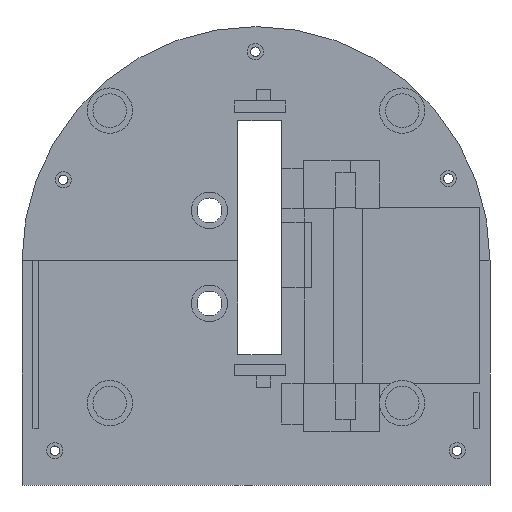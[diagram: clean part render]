
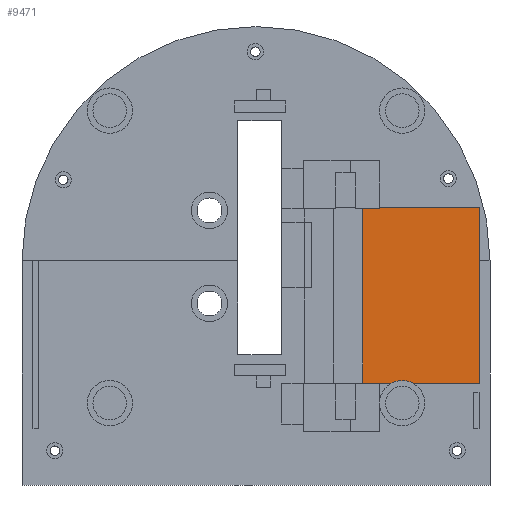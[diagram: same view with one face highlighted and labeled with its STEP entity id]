
A CAD part, left-side view. The second image highlights one B-rep face of the part: STEP entity #9471.
In plain terms, the highlighted planar face has unit normal (-1, 0, 0).
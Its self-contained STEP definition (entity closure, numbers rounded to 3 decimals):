
#6705 = PLANE('',#6706);
#6706 = AXIS2_PLACEMENT_3D('',#6707,#6708,#6709);
#6707 = CARTESIAN_POINT('',(53.75,1.4,15.25));
#6708 = DIRECTION('',(0.,0.,1.));
#6709 = DIRECTION('',(1.,0.,0.));
#6731 = PLANE('',#6732);
#6732 = AXIS2_PLACEMENT_3D('',#6733,#6734,#6735);
#6733 = CARTESIAN_POINT('',(53.75,1.4,15.25));
#6734 = DIRECTION('',(0.,1.,0.));
#6735 = DIRECTION('',(0.,0.,1.));
#7311 = PLANE('',#7312);
#7312 = AXIS2_PLACEMENT_3D('',#7313,#7314,#7315);
#7313 = CARTESIAN_POINT('',(53.75,1.4,39.25));
#7314 = DIRECTION('',(0.,0.,1.));
#7315 = DIRECTION('',(1.,0.,0.));
#7713 = VERTEX_POINT('',#7714);
#7714 = CARTESIAN_POINT('',(63.75,1.4,15.25));
#7738 = VERTEX_POINT('',#7739);
#7739 = CARTESIAN_POINT('',(63.75,1.4,39.25));
#7760 = EDGE_CURVE('',#7713,#7738,#7761,.T.);
#7761 = SURFACE_CURVE('',#7762,(#7766,#7773),.PCURVE_S1.);
#7762 = LINE('',#7763,#7764);
#7763 = CARTESIAN_POINT('',(63.75,1.4,15.25));
#7764 = VECTOR('',#7765,1.);
#7765 = DIRECTION('',(0.,0.,1.));
#7766 = PCURVE('',#6731,#7767);
#7767 = DEFINITIONAL_REPRESENTATION('',(#7768),#7772);
#7768 = LINE('',#7769,#7770);
#7769 = CARTESIAN_POINT('',(0.,10.));
#7770 = VECTOR('',#7771,1.);
#7771 = DIRECTION('',(1.,0.));
#7772 = ( GEOMETRIC_REPRESENTATION_CONTEXT(2) 
PARAMETRIC_REPRESENTATION_CONTEXT() REPRESENTATION_CONTEXT('2D SPACE',''
  ) );
#7773 = PCURVE('',#7774,#7779);
#7774 = PLANE('',#7775);
#7775 = AXIS2_PLACEMENT_3D('',#7776,#7777,#7778);
#7776 = CARTESIAN_POINT('',(63.75,1.4,15.25));
#7777 = DIRECTION('',(1.,0.,0.));
#7778 = DIRECTION('',(0.,0.,1.));
#7779 = DEFINITIONAL_REPRESENTATION('',(#7780),#7784);
#7780 = LINE('',#7781,#7782);
#7781 = CARTESIAN_POINT('',(0.,0.));
#7782 = VECTOR('',#7783,1.);
#7783 = DIRECTION('',(1.,0.));
#7784 = ( GEOMETRIC_REPRESENTATION_CONTEXT(2) 
PARAMETRIC_REPRESENTATION_CONTEXT() REPRESENTATION_CONTEXT('2D SPACE',''
  ) );
#7791 = EDGE_CURVE('',#7713,#7792,#7794,.T.);
#7792 = VERTEX_POINT('',#7793);
#7793 = CARTESIAN_POINT('',(63.75,17.4,15.25));
#7794 = SURFACE_CURVE('',#7795,(#7799,#7806),.PCURVE_S1.);
#7795 = LINE('',#7796,#7797);
#7796 = CARTESIAN_POINT('',(63.75,1.4,15.25));
#7797 = VECTOR('',#7798,1.);
#7798 = DIRECTION('',(0.,1.,0.));
#7799 = PCURVE('',#6705,#7800);
#7800 = DEFINITIONAL_REPRESENTATION('',(#7801),#7805);
#7801 = LINE('',#7802,#7803);
#7802 = CARTESIAN_POINT('',(10.,0.));
#7803 = VECTOR('',#7804,1.);
#7804 = DIRECTION('',(0.,1.));
#7805 = ( GEOMETRIC_REPRESENTATION_CONTEXT(2) 
PARAMETRIC_REPRESENTATION_CONTEXT() REPRESENTATION_CONTEXT('2D SPACE',''
  ) );
#7806 = PCURVE('',#7774,#7807);
#7807 = DEFINITIONAL_REPRESENTATION('',(#7808),#7812);
#7808 = LINE('',#7809,#7810);
#7809 = CARTESIAN_POINT('',(0.,0.));
#7810 = VECTOR('',#7811,1.);
#7811 = DIRECTION('',(0.,-1.));
#7812 = ( GEOMETRIC_REPRESENTATION_CONTEXT(2) 
PARAMETRIC_REPRESENTATION_CONTEXT() REPRESENTATION_CONTEXT('2D SPACE',''
  ) );
#8951 = EDGE_CURVE('',#7738,#8952,#8954,.T.);
#8952 = VERTEX_POINT('',#8953);
#8953 = CARTESIAN_POINT('',(63.75,17.4,39.25));
#8954 = SURFACE_CURVE('',#8955,(#8959,#8966),.PCURVE_S1.);
#8955 = LINE('',#8956,#8957);
#8956 = CARTESIAN_POINT('',(63.75,1.4,39.25));
#8957 = VECTOR('',#8958,1.);
#8958 = DIRECTION('',(0.,1.,0.));
#8959 = PCURVE('',#7311,#8960);
#8960 = DEFINITIONAL_REPRESENTATION('',(#8961),#8965);
#8961 = LINE('',#8962,#8963);
#8962 = CARTESIAN_POINT('',(10.,0.));
#8963 = VECTOR('',#8964,1.);
#8964 = DIRECTION('',(0.,1.));
#8965 = ( GEOMETRIC_REPRESENTATION_CONTEXT(2) 
PARAMETRIC_REPRESENTATION_CONTEXT() REPRESENTATION_CONTEXT('2D SPACE',''
  ) );
#8966 = PCURVE('',#7774,#8967);
#8967 = DEFINITIONAL_REPRESENTATION('',(#8968),#8972);
#8968 = LINE('',#8969,#8970);
#8969 = CARTESIAN_POINT('',(24.,0.));
#8970 = VECTOR('',#8971,1.);
#8971 = DIRECTION('',(0.,-1.));
#8972 = ( GEOMETRIC_REPRESENTATION_CONTEXT(2) 
PARAMETRIC_REPRESENTATION_CONTEXT() REPRESENTATION_CONTEXT('2D SPACE',''
  ) );
#9471 = ADVANCED_FACE('',(#9472),#7774,.F.);
#9472 = FACE_BOUND('',#9473,.F.);
#9473 = EDGE_LOOP('',(#9474,#9475,#9476,#9477));
#9474 = ORIENTED_EDGE('',*,*,#8951,.F.);
#9475 = ORIENTED_EDGE('',*,*,#7760,.F.);
#9476 = ORIENTED_EDGE('',*,*,#7791,.T.);
#9477 = ORIENTED_EDGE('',*,*,#9478,.T.);
#9478 = EDGE_CURVE('',#7792,#8952,#9479,.T.);
#9479 = SURFACE_CURVE('',#9480,(#9484,#9491),.PCURVE_S1.);
#9480 = LINE('',#9481,#9482);
#9481 = CARTESIAN_POINT('',(63.75,17.4,9.25));
#9482 = VECTOR('',#9483,1.);
#9483 = DIRECTION('',(0.,0.,1.));
#9484 = PCURVE('',#7774,#9485);
#9485 = DEFINITIONAL_REPRESENTATION('',(#9486),#9490);
#9486 = LINE('',#9487,#9488);
#9487 = CARTESIAN_POINT('',(-6.,-16.));
#9488 = VECTOR('',#9489,1.);
#9489 = DIRECTION('',(1.,0.));
#9490 = ( GEOMETRIC_REPRESENTATION_CONTEXT(2) 
PARAMETRIC_REPRESENTATION_CONTEXT() REPRESENTATION_CONTEXT('2D SPACE',''
  ) );
#9491 = PCURVE('',#9492,#9497);
#9492 = PLANE('',#9493);
#9493 = AXIS2_PLACEMENT_3D('',#9494,#9495,#9496);
#9494 = CARTESIAN_POINT('',(63.75,17.4,9.25));
#9495 = DIRECTION('',(1.,0.,0.));
#9496 = DIRECTION('',(0.,0.,1.));
#9497 = DEFINITIONAL_REPRESENTATION('',(#9498),#9502);
#9498 = LINE('',#9499,#9500);
#9499 = CARTESIAN_POINT('',(0.,0.));
#9500 = VECTOR('',#9501,1.);
#9501 = DIRECTION('',(1.,0.));
#9502 = ( GEOMETRIC_REPRESENTATION_CONTEXT(2) 
PARAMETRIC_REPRESENTATION_CONTEXT() REPRESENTATION_CONTEXT('2D SPACE',''
  ) );
